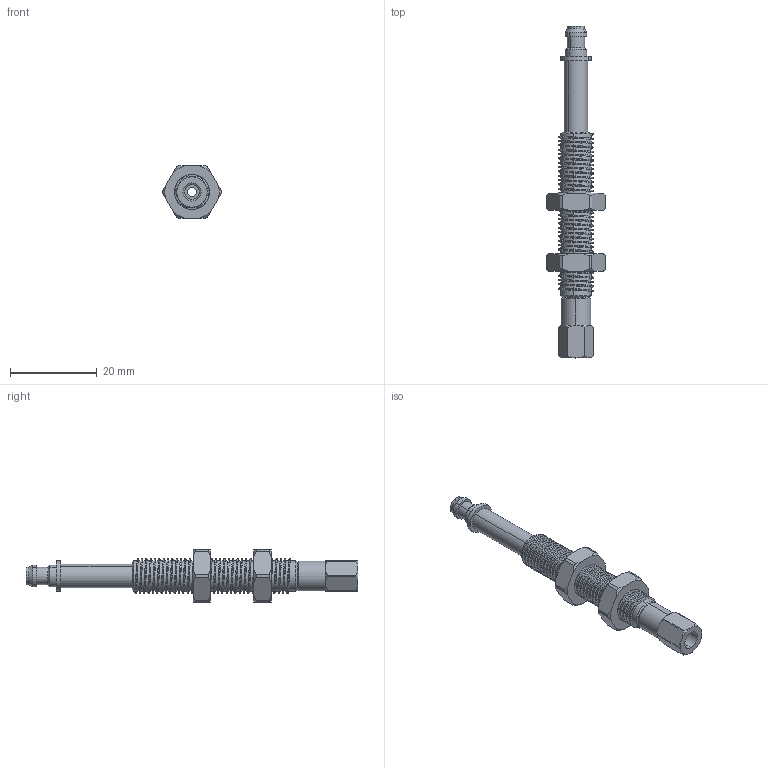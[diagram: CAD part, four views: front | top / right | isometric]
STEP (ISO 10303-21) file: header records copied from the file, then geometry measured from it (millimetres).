
FILE_DESCRIPTION (( 'STEP AP214' ), '1' );
FILE_NAME ('VFRT-15M5.STEP', '2019-11-15T08:39:11', ( '微软用户' ), ( '微软中国' ), 'SwSTEP 2.0', 'SolidWorks 2016', '' );
FILE_SCHEMA (( 'AUTOMOTIVE_DESIGN' ));
Length unit declared in the file: millimetre
Products named in the file (1): VFRT-15M5
Bounding box: 13.5 x 76.5 x 12 mm (x, y, z)
Volume: 2680 mm3; surface area: 5001.8 mm2
Topology: 5 solids, 5 shells, 213 faces, 565 edges, 368 vertices
Faces by surface type: cylinder 125, cone 49, plane 36, bspline 3
Entity records: 15674 total; most frequent: CARTESIAN_POINT 8400, ORIENTED_EDGE 1130, DIRECTION 924, EDGE_CURVE 565, VERTEX_POINT 368, AXIS2_PLACEMENT_3D 368, EDGE_LOOP 229, UNCERTAINTY_MEASURE_WITH_UNIT 220
